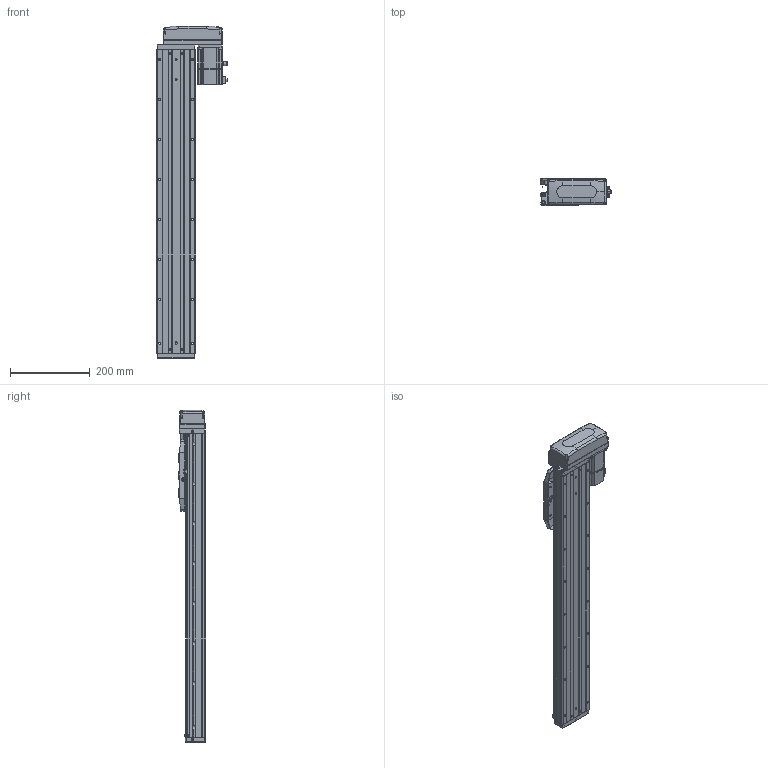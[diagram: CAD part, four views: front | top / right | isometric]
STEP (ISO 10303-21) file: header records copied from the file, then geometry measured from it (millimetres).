
FILE_DESCRIPTION (( 'STEP AP203' ), '1' );
FILE_NAME ('CTHA100-550-BL-M20-C4L.step', '2022-07-06T08:57:52', ( '微软用户' ), ( '微软中国' ), 'SwSTEP 2.0', 'SolidWorks 2020', '' );
FILE_SCHEMA (( 'CONFIG_CONTROL_DESIGN' ));
Length unit declared in the file: millimetre
Products named in the file (19): GB¨uT 70.2-M3¡Á5_M3¡Á6; CTHA60-016; CTHA86-033; EE_SX911P_R; _X2_4E0983F1_X0_200W_1; CTHA100-550-BL-M20-C4L; CTHA60-017; CTHA100-002; CTHA60-021; CTHA100-031; KTHA100-001_760; GBT77-2000 M3×3; CTHA86-030; KTHA100-004; GBT 70.1-M3℅6; GBT 70.3-M3℅6; KTHA100-005; GBT70.1 M5℅16; CTHA86-015-1_CTHA86-015-2
Assembly tree (64 placements, depth 2):
  CTHA100-550-BL-M20-C4L
    KTHA100-001_760
    KTHA100-004
    KTHA100-005
    GB¨uT 70.2-M3¡Á5_M3¡Á6  x10
    EE_SX911P_R  x3
    CTHA60-017  x3
    CTHA60-021  x2
    GBT77-2000 M3×3  x6
    GBT 70.1-M3℅6  x10
    GBT70.1 M5℅16  x14
    CTHA60-016  x2
    _X2_4E0983F1_X0_200W_1
    CTHA100-002
    CTHA100-031
    CTHA86-030  x2
    GBT 70.3-M3℅6  x4
    CTHA86-015-1_CTHA86-015-2
    CTHA86-033
Bounding box: 177.7 x 68 x 831 mm (x, y, z)
Volume: 3582107.1 mm3; surface area: 610099.6 mm2
Topology: 66 solids, 66 shells, 2669 faces, 6415 edges, 3976 vertices
Faces by surface type: plane 1392, cylinder 701, cone 353, torus 124, bspline 75, sphere 24
Entity records: 45992 total; most frequent: CARTESIAN_POINT 9035, DIRECTION 7094, ORIENTED_EDGE 6946, EDGE_CURVE 3473, AXIS2_PLACEMENT_3D 2407, VECTOR 2280, LINE 2280, VERTEX_POINT 2196
